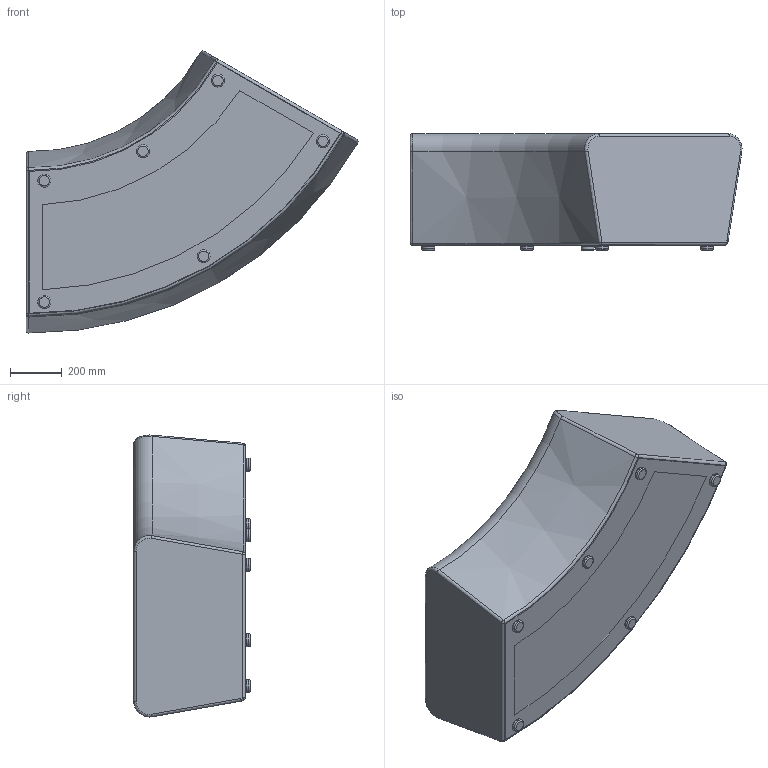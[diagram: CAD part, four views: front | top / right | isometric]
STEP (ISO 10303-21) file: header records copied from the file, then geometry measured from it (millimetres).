
FILE_DESCRIPTION(/* description */ (''),/* implementation_level */ '2;1');
FILE_NAME(/* name */ 'Opoho 60 Ottoman.step',/* time_stamp */ '2025-06-12T13:56:58+12:00',/* author */ (''),/* organization */ (''),/* preprocessor_version */ 'ST-DEVELOPER v20.1',/* originating_system */ 'Autodesk Translation Framework v14.10.0.0',/* authorisation */ '');
FILE_SCHEMA (('AUTOMOTIVE_DESIGN { 1 0 10303 214 3 1 1 }'));
Length unit declared in the file: millimetre
Products named in the file (20): Opoho 60 Ottoman; Frame; Seat; Seat battens; Seat Battens Rear Group; Seat Battens Rear Section; Seat Battens Rear (1); Seat Battens Front Group; Seat Battens front Section; Seat Battens Front (1); Seat Sections; Seat Sections (1); Seat Section Ends; Seat Horizontal Bracing (1); Seat Horizontal Bracing; Base; MDF; MDF Seat Back; MDF Seat Front; Upholstery and feet
Assembly tree (27 placements, depth 7):
  Opoho 60 Ottoman
    Frame
      Seat
        Seat battens
          Seat Battens Rear Group
            Seat Battens Rear Section  x3
              Seat Battens Rear (1)
          Seat Battens Front Group
            Seat Battens front Section  x3
              Seat Battens Front (1)
        Seat Sections
          Seat Sections (1)  x2
          Seat Section Ends  x2
        Seat Horizontal Bracing (1)
          Seat Horizontal Bracing
          Base
    MDF
      MDF Seat Back
      MDF Seat Front
    Upholstery and feet
Bounding box: 1283.96 x 450 x 1090.76 mm (x, y, z)
Volume: 359742255.2 mm3; surface area: 7776326.9 mm2
Topology: 27 solids, 27 shells, 212 faces, 440 edges, 282 vertices
Faces by surface type: plane 144, cylinder 24, torus 17, cone 11, bspline 10, sphere 6
Full cylindrical faces by diameter (mm): 50 x6
Entity records: 4530 total; most frequent: CARTESIAN_POINT 1126, DIRECTION 703, ORIENTED_EDGE 550, AXIS2_PLACEMENT_3D 285, EDGE_CURVE 275, VERTEX_POINT 172, EDGE_LOOP 137, FACE_OUTER_BOUND 133
